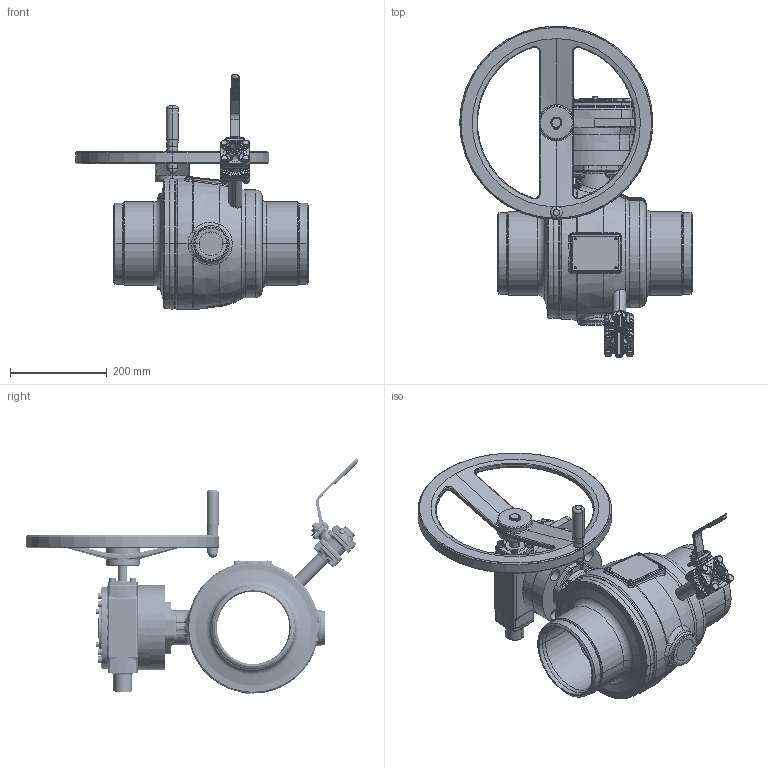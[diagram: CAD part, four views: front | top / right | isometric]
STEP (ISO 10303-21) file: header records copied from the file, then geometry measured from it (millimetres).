
FILE_DESCRIPTION((''),'2;1');
FILE_NAME('ASM0001_ASM','2026-01-28T09:55:43',('schwaba'),('KLINGER'),'CREO PARAMETRIC BY PTC INC, 2023014','CREO PARAMETRIC BY PTC INC, 2023014','');
FILE_SCHEMA(('CONFIG_CONTROL_DESIGN'));
Products named in the file (8): KHSVI_150_FG_FR_WE_F14_ENTL; GS80_3_F14_53; AUFSATZDECKEL_GS63-GS80; ZYLSCHR-ISKT--M8X25---8_8; AHR_400_20_M_BALLENGRIFF; DIN471_20X1_2; GS80_3_53_F14------------AHR400_ASM; ASM0001_ASM
Assembly tree (10 placements, depth 3):
  ASM0001_ASM
    KHSVI_150_FG_FR_WE_F14_ENTL
    GS80_3_53_F14------------AHR400_ASM
      GS80_3_F14_53
      AUFSATZDECKEL_GS63-GS80
      ZYLSCHR-ISKT--M8X25---8_8  x4
      AHR_400_20_M_BALLENGRIFF
      DIN471_20X1_2
Bounding box: 481.5 x 686.9 x 488.12 mm (x, y, z)
Volume: 9734384.1 mm3; surface area: 1686125.2 mm2
Topology: 9 solids, 16 shells, 4288 faces, 10198 edges, 6056 vertices
Faces by surface type: plane 1201, cylinder 1135, bspline 666, torus 651, cone 497, sphere 109, revolution 16, extrusion 13
Entity records: 224042 total; most frequent: CARTESIAN_POINT 131184, ORIENTED_EDGE 19986, DIRECTION 18963, EDGE_CURVE 9996, AXIS2_PLACEMENT_3D 7974, VERTEX_POINT 5951, EDGE_LOOP 4483, CIRCLE 4422
